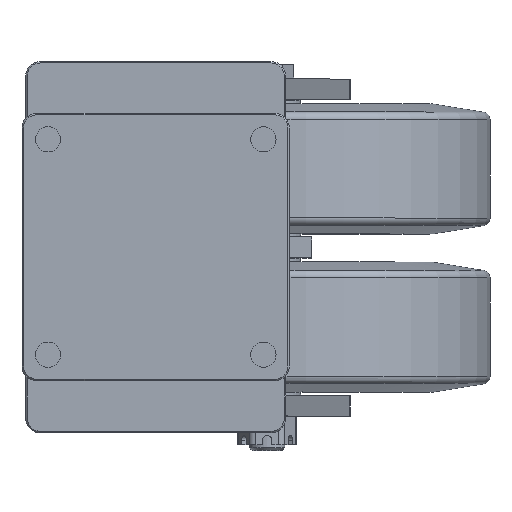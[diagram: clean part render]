
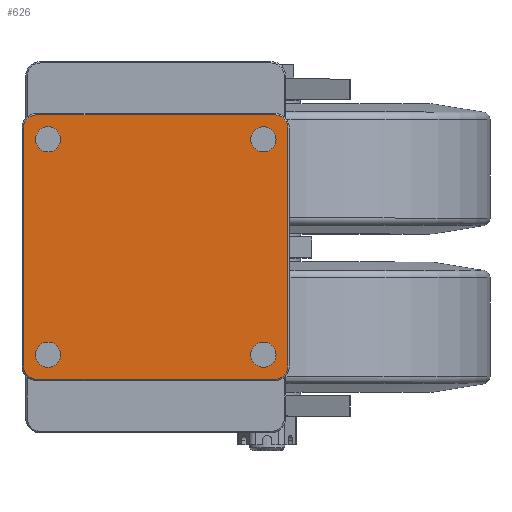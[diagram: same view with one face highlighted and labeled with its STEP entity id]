
A CAD part, top view. The second image highlights one B-rep face of the part: STEP entity #626.
In plain terms, the highlighted planar face has unit normal (0, 0, 1).
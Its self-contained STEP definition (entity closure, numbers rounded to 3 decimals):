
#626=ADVANCED_FACE('',(#1476,#1477,#1478,#1479,#1480),#975,.T.);
#975=PLANE('',#7335);
#1476=FACE_BOUND('',#1630,.T.);
#1477=FACE_BOUND('',#1631,.T.);
#1478=FACE_BOUND('',#1632,.T.);
#1479=FACE_BOUND('',#1633,.T.);
#1480=FACE_BOUND('',#1634,.T.);
#1630=EDGE_LOOP('',(#2803,#2804,#2805,#2806,#2807,#2808,#2809,#2810));
#1631=EDGE_LOOP('',(#2811,#2812));
#1632=EDGE_LOOP('',(#2813,#2814));
#1633=EDGE_LOOP('',(#2815,#2816));
#1634=EDGE_LOOP('',(#2817,#2818));
#2065=CIRCLE('',#7286,8.5);
#2067=CIRCLE('',#7289,8.5);
#2069=CIRCLE('',#7292,8.5);
#2071=CIRCLE('',#7295,8.5);
#2073=CIRCLE('',#7298,8.5);
#2075=CIRCLE('',#7301,8.5);
#2077=CIRCLE('',#7304,8.5);
#2079=CIRCLE('',#7307,8.5);
#2082=CIRCLE('',#7312,9.);
#2089=CIRCLE('',#7327,9.);
#2090=CIRCLE('',#7330,9.);
#2091=CIRCLE('',#7333,9.);
#2803=ORIENTED_EDGE('',*,*,#5424,.F.);
#2804=ORIENTED_EDGE('',*,*,#5422,.F.);
#2805=ORIENTED_EDGE('',*,*,#5420,.F.);
#2806=ORIENTED_EDGE('',*,*,#5418,.F.);
#2807=ORIENTED_EDGE('',*,*,#5426,.F.);
#2808=ORIENTED_EDGE('',*,*,#5395,.F.);
#2809=ORIENTED_EDGE('',*,*,#5398,.F.);
#2810=ORIENTED_EDGE('',*,*,#5425,.F.);
#2811=ORIENTED_EDGE('',*,*,#5386,.F.);
#2812=ORIENTED_EDGE('',*,*,#5388,.F.);
#2813=ORIENTED_EDGE('',*,*,#5380,.F.);
#2814=ORIENTED_EDGE('',*,*,#5382,.F.);
#2815=ORIENTED_EDGE('',*,*,#5374,.F.);
#2816=ORIENTED_EDGE('',*,*,#5376,.F.);
#2817=ORIENTED_EDGE('',*,*,#5368,.F.);
#2818=ORIENTED_EDGE('',*,*,#5370,.F.);
#4616=VERTEX_POINT('',#10638);
#4618=VERTEX_POINT('',#10642);
#4620=VERTEX_POINT('',#10650);
#4622=VERTEX_POINT('',#10654);
#4624=VERTEX_POINT('',#10662);
#4626=VERTEX_POINT('',#10666);
#4628=VERTEX_POINT('',#10674);
#4630=VERTEX_POINT('',#10678);
#4635=VERTEX_POINT('',#10694);
#4636=VERTEX_POINT('',#10696);
#4638=VERTEX_POINT('',#10702);
#4650=VERTEX_POINT('',#10740);
#4651=VERTEX_POINT('',#10742);
#4652=VERTEX_POINT('',#10746);
#4653=VERTEX_POINT('',#10750);
#4654=VERTEX_POINT('',#10754);
#5368=EDGE_CURVE('',#4618,#4616,#2065,.T.);
#5370=EDGE_CURVE('',#4616,#4618,#2067,.T.);
#5374=EDGE_CURVE('',#4622,#4620,#2069,.T.);
#5376=EDGE_CURVE('',#4620,#4622,#2071,.T.);
#5380=EDGE_CURVE('',#4626,#4624,#2073,.T.);
#5382=EDGE_CURVE('',#4624,#4626,#2075,.T.);
#5386=EDGE_CURVE('',#4630,#4628,#2077,.T.);
#5388=EDGE_CURVE('',#4628,#4630,#2079,.T.);
#5395=EDGE_CURVE('',#4636,#4635,#2082,.T.);
#5398=EDGE_CURVE('',#4638,#4636,#6230,.T.);
#5418=EDGE_CURVE('',#4651,#4650,#2089,.T.);
#5420=EDGE_CURVE('',#4650,#4652,#6245,.T.);
#5422=EDGE_CURVE('',#4652,#4653,#2090,.T.);
#5424=EDGE_CURVE('',#4653,#4654,#6248,.T.);
#5425=EDGE_CURVE('',#4654,#4638,#2091,.T.);
#5426=EDGE_CURVE('',#4635,#4651,#6249,.T.);
#6230=LINE('',#10703,#6748);
#6245=LINE('',#10747,#6763);
#6248=LINE('',#10755,#6766);
#6249=LINE('',#10759,#6767);
#6748=VECTOR('',#8312,1.);
#6763=VECTOR('',#8357,1.);
#6766=VECTOR('',#8366,1.);
#6767=VECTOR('',#8373,1.);
#7286=AXIS2_PLACEMENT_3D('',#10643,#8244,#8245);
#7289=AXIS2_PLACEMENT_3D('',#10646,#8250,#8251);
#7292=AXIS2_PLACEMENT_3D('',#10655,#8258,#8259);
#7295=AXIS2_PLACEMENT_3D('',#10658,#8264,#8265);
#7298=AXIS2_PLACEMENT_3D('',#10667,#8272,#8273);
#7301=AXIS2_PLACEMENT_3D('',#10670,#8278,#8279);
#7304=AXIS2_PLACEMENT_3D('',#10679,#8286,#8287);
#7307=AXIS2_PLACEMENT_3D('',#10682,#8292,#8293);
#7312=AXIS2_PLACEMENT_3D('',#10697,#8306,#8307);
#7327=AXIS2_PLACEMENT_3D('',#10743,#8352,#8353);
#7330=AXIS2_PLACEMENT_3D('',#10751,#8361,#8362);
#7333=AXIS2_PLACEMENT_3D('',#10757,#8369,#8370);
#7335=AXIS2_PLACEMENT_3D('',#10760,#8374,#8375);
#8244=DIRECTION('',(0.,0.,1.));
#8245=DIRECTION('',(-1.,0.,0.));
#8250=DIRECTION('',(0.,0.,1.));
#8251=DIRECTION('',(1.,0.,0.));
#8258=DIRECTION('',(0.,0.,1.));
#8259=DIRECTION('',(-1.,0.,0.));
#8264=DIRECTION('',(0.,0.,1.));
#8265=DIRECTION('',(1.,0.,0.));
#8272=DIRECTION('',(0.,0.,1.));
#8273=DIRECTION('',(-1.,0.,0.));
#8278=DIRECTION('',(0.,0.,1.));
#8279=DIRECTION('',(1.,0.,0.));
#8286=DIRECTION('',(0.,0.,1.));
#8287=DIRECTION('',(-1.,0.,0.));
#8292=DIRECTION('',(0.,0.,1.));
#8293=DIRECTION('',(1.,0.,0.));
#8306=DIRECTION('',(0.,0.,-1.));
#8307=DIRECTION('',(0.,-1.,0.));
#8312=DIRECTION('',(-1.,0.,0.));
#8352=DIRECTION('',(0.,0.,-1.));
#8353=DIRECTION('',(-1.,0.,0.));
#8357=DIRECTION('',(1.,0.,0.));
#8361=DIRECTION('',(0.,0.,-1.));
#8362=DIRECTION('',(0.,1.,0.));
#8366=DIRECTION('',(0.,-1.,0.));
#8369=DIRECTION('',(0.,0.,-1.));
#8370=DIRECTION('',(1.,0.,0.));
#8373=DIRECTION('',(0.,1.,0.));
#8374=DIRECTION('',(0.,0.,1.));
#8375=DIRECTION('',(1.,0.,0.));
#10638=CARTESIAN_POINT('',(-64.,72.5,0.));
#10642=CARTESIAN_POINT('',(-81.,72.5,0.));
#10643=CARTESIAN_POINT('',(-72.5,72.5,0.));
#10646=CARTESIAN_POINT('',(-72.5,72.5,0.));
#10650=CARTESIAN_POINT('',(81.,-72.5,0.));
#10654=CARTESIAN_POINT('',(64.,-72.5,0.));
#10655=CARTESIAN_POINT('',(72.5,-72.5,0.));
#10658=CARTESIAN_POINT('',(72.5,-72.5,0.));
#10662=CARTESIAN_POINT('',(81.,72.5,0.));
#10666=CARTESIAN_POINT('',(64.,72.5,0.));
#10667=CARTESIAN_POINT('',(72.5,72.5,0.));
#10670=CARTESIAN_POINT('',(72.5,72.5,0.));
#10674=CARTESIAN_POINT('',(-64.,-72.5,0.));
#10678=CARTESIAN_POINT('',(-81.,-72.5,0.));
#10679=CARTESIAN_POINT('',(-72.5,-72.5,0.));
#10682=CARTESIAN_POINT('',(-72.5,-72.5,0.));
#10694=CARTESIAN_POINT('',(-89.,-80.,0.));
#10696=CARTESIAN_POINT('',(-80.,-89.,0.));
#10697=CARTESIAN_POINT('',(-80.,-80.,0.));
#10702=CARTESIAN_POINT('',(80.,-89.,0.));
#10703=CARTESIAN_POINT('',(80.,-89.,0.));
#10740=CARTESIAN_POINT('',(-80.,89.,0.));
#10742=CARTESIAN_POINT('',(-89.,80.,0.));
#10743=CARTESIAN_POINT('',(-80.,80.,0.));
#10746=CARTESIAN_POINT('',(80.,89.,0.));
#10747=CARTESIAN_POINT('',(-80.,89.,0.));
#10750=CARTESIAN_POINT('',(89.,80.,0.));
#10751=CARTESIAN_POINT('',(80.,80.,0.));
#10754=CARTESIAN_POINT('',(89.,-80.,0.));
#10755=CARTESIAN_POINT('',(89.,80.,0.));
#10757=CARTESIAN_POINT('',(80.,-80.,0.));
#10759=CARTESIAN_POINT('',(-89.,-80.,0.));
#10760=CARTESIAN_POINT('',(0.,0.,0.));
